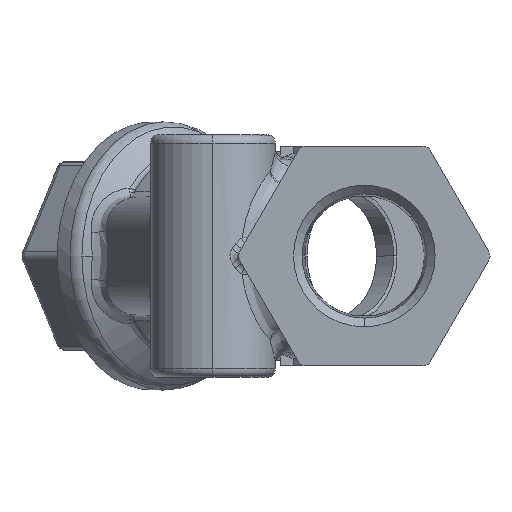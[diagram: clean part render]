
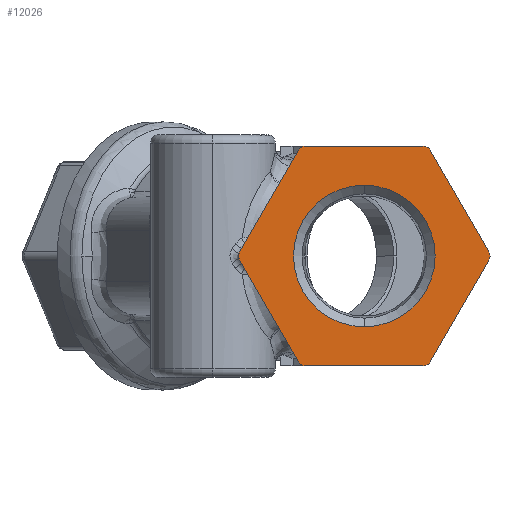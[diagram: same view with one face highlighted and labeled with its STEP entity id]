
A CAD part, left-side view. The second image highlights one B-rep face of the part: STEP entity #12026.
In plain terms, the highlighted planar face has unit normal (-1, 0, 0).
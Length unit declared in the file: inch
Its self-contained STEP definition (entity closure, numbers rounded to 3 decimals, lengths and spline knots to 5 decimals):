
#7878 = CARTESIAN_POINT ( 'NONE',  ( -0.877, 0., 0.42245 ) ) ;
#7902 = CARTESIAN_POINT ( 'NONE',  ( -0.877, 0., -0.42245 ) ) ;
#9852 = CIRCLE ( 'NONE', #32762, 0.42245 ) ;
#10045 = CIRCLE ( 'NONE', #14694, 0.05 ) ;
#10113 = LINE ( 'NONE', #14085, #10123 ) ;
#10120 = LINE ( 'NONE', #14084, #10131 ) ;
#10123 = VECTOR ( 'NONE', #14090, 39.37008 ) ;
#10128 = LINE ( 'NONE', #14089, #10145 ) ;
#10131 = VECTOR ( 'NONE', #14098, 39.37008 ) ;
#10134 = LINE ( 'NONE', #14103, #10137 ) ;
#10137 = VECTOR ( 'NONE', #14104, 39.37008 ) ;
#10142 = LINE ( 'NONE', #14096, #10153 ) ;
#10145 = VECTOR ( 'NONE', #14112, 39.37008 ) ;
#10150 = LINE ( 'NONE', #14110, #10161 ) ;
#10153 = VECTOR ( 'NONE', #14119, 39.37008 ) ;
#10158 = CIRCLE ( 'NONE', #14715, 0.05 ) ;
#10161 = VECTOR ( 'NONE', #14126, 39.37008 ) ;
#10166 = CIRCLE ( 'NONE', #14714, 0.05 ) ;
#10168 = CIRCLE ( 'NONE', #14717, 0.05 ) ;
#10170 = CIRCLE ( 'NONE', #14719, 0.05 ) ;
#10172 = CIRCLE ( 'NONE', #14721, 0.05 ) ;
#10174 = CIRCLE ( 'NONE', #14723, 0.05 ) ;
#11968 = VERTEX_POINT ( 'NONE', #30154 ) ;
#11999 = VERTEX_POINT ( 'NONE', #30083 ) ;
#12026 = ADVANCED_FACE ( 'NONE', ( #32160, #32154 ), #34043, .T. ) ;
#12737 = CARTESIAN_POINT ( 'NONE',  ( -0.877, 0., 0. ) ) ;
#12738 = DIRECTION ( 'NONE',  ( 1., 0., 0. ) ) ;
#12739 = DIRECTION ( 'NONE',  ( 0., 0., 1. ) ) ;
#13897 = CARTESIAN_POINT ( 'NONE',  ( -0.877, -0.70004, 0. ) ) ;
#13898 = DIRECTION ( 'NONE',  ( 1., 0., 0. ) ) ;
#13899 = DIRECTION ( 'NONE',  ( 0., 0., 1. ) ) ;
#14084 = CARTESIAN_POINT ( 'NONE',  ( -0.877, 0.37889, -0.65625 ) ) ;
#14085 = CARTESIAN_POINT ( 'NONE',  ( -0.877, 0.75777, 0. ) ) ;
#14089 = CARTESIAN_POINT ( 'NONE',  ( -0.877, -0.75777, 0. ) ) ;
#14090 = DIRECTION ( 'NONE',  ( 0., 0.5, 0.866 ) ) ;
#14096 = CARTESIAN_POINT ( 'NONE',  ( -0.877, -0.37889, 0.65625 ) ) ;
#14098 = DIRECTION ( 'NONE',  ( 0., 1., 0. ) ) ;
#14103 = CARTESIAN_POINT ( 'NONE',  ( -0.877, -0.37889, -0.65625 ) ) ;
#14104 = DIRECTION ( 'NONE',  ( 0., 0.5, -0.866 ) ) ;
#14110 = CARTESIAN_POINT ( 'NONE',  ( -0.877, 0.37889, 0.65625 ) ) ;
#14112 = DIRECTION ( 'NONE',  ( 0., -0.5, -0.866 ) ) ;
#14119 = DIRECTION ( 'NONE',  ( 0., -1., 0. ) ) ;
#14126 = DIRECTION ( 'NONE',  ( 0., -0.5, 0.866 ) ) ;
#14134 = CARTESIAN_POINT ( 'NONE',  ( -0.877, -0.70004, 0. ) ) ;
#14135 = DIRECTION ( 'NONE',  ( 1., 0., 0. ) ) ;
#14136 = DIRECTION ( 'NONE',  ( 0., 0., 1. ) ) ;
#14137 = CARTESIAN_POINT ( 'NONE',  ( -0.877, -0.35002, -0.60625 ) ) ;
#14138 = DIRECTION ( 'NONE',  ( 1., 0., 0. ) ) ;
#14139 = DIRECTION ( 'NONE',  ( 0., 0., 1. ) ) ;
#14143 = CARTESIAN_POINT ( 'NONE',  ( -0.877, -0.35002, 0.60625 ) ) ;
#14144 = DIRECTION ( 'NONE',  ( 1., 0., 0. ) ) ;
#14145 = DIRECTION ( 'NONE',  ( 0., 0., 1. ) ) ;
#14149 = CARTESIAN_POINT ( 'NONE',  ( -0.877, 0.35002, -0.60625 ) ) ;
#14150 = DIRECTION ( 'NONE',  ( 1., 0., 0. ) ) ;
#14151 = DIRECTION ( 'NONE',  ( 0., 0., 1. ) ) ;
#14155 = CARTESIAN_POINT ( 'NONE',  ( -0.877, 0.35002, 0.60625 ) ) ;
#14156 = DIRECTION ( 'NONE',  ( 1., 0., 0. ) ) ;
#14157 = DIRECTION ( 'NONE',  ( 0., 0., 1. ) ) ;
#14161 = CARTESIAN_POINT ( 'NONE',  ( -0.877, 0.70004, 0. ) ) ;
#14162 = DIRECTION ( 'NONE',  ( 1., 0., 0. ) ) ;
#14163 = DIRECTION ( 'NONE',  ( 0., 0., 1. ) ) ;
#14559 = CARTESIAN_POINT ( 'NONE',  ( -0.877, 0.39332, -0.63125 ) ) ;
#14561 = CARTESIAN_POINT ( 'NONE',  ( -0.877, -0.35002, -0.65625 ) ) ;
#14562 = CARTESIAN_POINT ( 'NONE',  ( -0.877, 0.74334, -0.025 ) ) ;
#14565 = CARTESIAN_POINT ( 'NONE',  ( -0.877, -0.39332, -0.63125 ) ) ;
#14566 = CARTESIAN_POINT ( 'NONE',  ( -0.877, 0.35002, -0.65625 ) ) ;
#14568 = CARTESIAN_POINT ( 'NONE',  ( -0.877, -0.39332, 0.63125 ) ) ;
#14571 = CARTESIAN_POINT ( 'NONE',  ( -0.877, 0.35002, 0.65625 ) ) ;
#14572 = CARTESIAN_POINT ( 'NONE',  ( -0.877, -0.74334, 0.025 ) ) ;
#14575 = CARTESIAN_POINT ( 'NONE',  ( -0.877, 0.74334, 0.025 ) ) ;
#14576 = CARTESIAN_POINT ( 'NONE',  ( -0.877, -0.35002, 0.65625 ) ) ;
#14580 = CARTESIAN_POINT ( 'NONE',  ( -0.877, 0.39332, 0.63125 ) ) ;
#14694 = AXIS2_PLACEMENT_3D ( 'NONE', #13897, #13898, #13899 ) ;
#14714 = AXIS2_PLACEMENT_3D ( 'NONE', #14134, #14135, #14136 ) ;
#14715 = AXIS2_PLACEMENT_3D ( 'NONE', #14137, #14138, #14139 ) ;
#14717 = AXIS2_PLACEMENT_3D ( 'NONE', #14143, #14144, #14145 ) ;
#14719 = AXIS2_PLACEMENT_3D ( 'NONE', #14149, #14150, #14151 ) ;
#14721 = AXIS2_PLACEMENT_3D ( 'NONE', #14155, #14156, #14157 ) ;
#14723 = AXIS2_PLACEMENT_3D ( 'NONE', #14161, #14162, #14163 ) ;
#14960 = AXIS2_PLACEMENT_3D ( 'NONE', #36829, #36830, #36831 ) ;
#18890 = EDGE_CURVE ( 'NONE', #39589, #39613, #9852, .T. ) ;
#19263 = EDGE_CURVE ( 'NONE', #11968, #11999, #10045, .T. ) ;
#19389 = EDGE_CURVE ( 'NONE', #21030, #21033, #10113, .T. ) ;
#19395 = EDGE_CURVE ( 'NONE', #21032, #21037, #10120, .T. ) ;
#19400 = EDGE_CURVE ( 'NONE', #11999, #21036, #10134, .T. ) ;
#19408 = EDGE_CURVE ( 'NONE', #21039, #21043, #10128, .T. ) ;
#19418 = EDGE_CURVE ( 'NONE', #21042, #21047, #10142, .T. ) ;
#19424 = EDGE_CURVE ( 'NONE', #21046, #21051, #10150, .T. ) ;
#19432 = EDGE_CURVE ( 'NONE', #21043, #11968, #10166, .T. ) ;
#19435 = EDGE_CURVE ( 'NONE', #21036, #21032, #10158, .T. ) ;
#19439 = EDGE_CURVE ( 'NONE', #21047, #21039, #10168, .T. ) ;
#19444 = EDGE_CURVE ( 'NONE', #21037, #21030, #10170, .T. ) ;
#19448 = EDGE_CURVE ( 'NONE', #21051, #21042, #10172, .T. ) ;
#19452 = EDGE_CURVE ( 'NONE', #21033, #21046, #10174, .T. ) ;
#21030 = VERTEX_POINT ( 'NONE', #14559 ) ;
#21032 = VERTEX_POINT ( 'NONE', #14561 ) ;
#21033 = VERTEX_POINT ( 'NONE', #14562 ) ;
#21036 = VERTEX_POINT ( 'NONE', #14565 ) ;
#21037 = VERTEX_POINT ( 'NONE', #14566 ) ;
#21039 = VERTEX_POINT ( 'NONE', #14568 ) ;
#21042 = VERTEX_POINT ( 'NONE', #14571 ) ;
#21043 = VERTEX_POINT ( 'NONE', #14572 ) ;
#21046 = VERTEX_POINT ( 'NONE', #14575 ) ;
#21047 = VERTEX_POINT ( 'NONE', #14576 ) ;
#21051 = VERTEX_POINT ( 'NONE', #14580 ) ;
#26571 = EDGE_CURVE ( 'NONE', #39613, #39589, #34605, .T. ) ;
#27183 = ORIENTED_EDGE ( 'NONE', *, *, #18890, .T. ) ;
#27184 = ORIENTED_EDGE ( 'NONE', *, *, #26571, .T. ) ;
#27185 = ORIENTED_EDGE ( 'NONE', *, *, #19400, .F. ) ;
#27186 = ORIENTED_EDGE ( 'NONE', *, *, #19263, .F. ) ;
#27187 = ORIENTED_EDGE ( 'NONE', *, *, #19432, .F. ) ;
#27188 = ORIENTED_EDGE ( 'NONE', *, *, #19408, .F. ) ;
#27189 = ORIENTED_EDGE ( 'NONE', *, *, #19439, .F. ) ;
#27190 = ORIENTED_EDGE ( 'NONE', *, *, #19418, .F. ) ;
#27191 = ORIENTED_EDGE ( 'NONE', *, *, #19448, .F. ) ;
#27192 = ORIENTED_EDGE ( 'NONE', *, *, #19424, .F. ) ;
#27193 = ORIENTED_EDGE ( 'NONE', *, *, #19452, .F. ) ;
#27194 = ORIENTED_EDGE ( 'NONE', *, *, #19389, .F. ) ;
#27195 = ORIENTED_EDGE ( 'NONE', *, *, #19444, .F. ) ;
#27196 = ORIENTED_EDGE ( 'NONE', *, *, #19395, .F. ) ;
#27197 = ORIENTED_EDGE ( 'NONE', *, *, #19435, .F. ) ;
#27804 = EDGE_LOOP ( 'NONE', ( #27183, #27184 ) ) ;
#27811 = EDGE_LOOP ( 'NONE', ( #27185, #27186, #27187, #27188, #27189, #27190, #27191, #27192, #27193, #27194, #27195, #27196, #27197 ) ) ;
#30083 = CARTESIAN_POINT ( 'NONE',  ( -0.877, -0.74334, -0.025 ) ) ;
#30154 = CARTESIAN_POINT ( 'NONE',  ( -0.877, -0.75004, 0. ) ) ;
#32154 = FACE_OUTER_BOUND ( 'NONE', #27811, .T. ) ;
#32160 = FACE_BOUND ( 'NONE', #27804, .T. ) ;
#32563 = AXIS2_PLACEMENT_3D ( 'NONE', #33995, #34047, #34049 ) ;
#32762 = AXIS2_PLACEMENT_3D ( 'NONE', #12737, #12738, #12739 ) ;
#33995 = CARTESIAN_POINT ( 'NONE',  ( -0.877, 0., 0. ) ) ;
#34043 = PLANE ( 'NONE',  #32563 ) ;
#34047 = DIRECTION ( 'NONE',  ( -1., 0., 0. ) ) ;
#34049 = DIRECTION ( 'NONE',  ( 0., 0., 1. ) ) ;
#34605 = CIRCLE ( 'NONE', #14960, 0.42245 ) ;
#36829 = CARTESIAN_POINT ( 'NONE',  ( -0.877, 0., 0. ) ) ;
#36830 = DIRECTION ( 'NONE',  ( 1., 0., 0. ) ) ;
#36831 = DIRECTION ( 'NONE',  ( 0., 0., 1. ) ) ;
#39589 = VERTEX_POINT ( 'NONE', #7878 ) ;
#39613 = VERTEX_POINT ( 'NONE', #7902 ) ;
